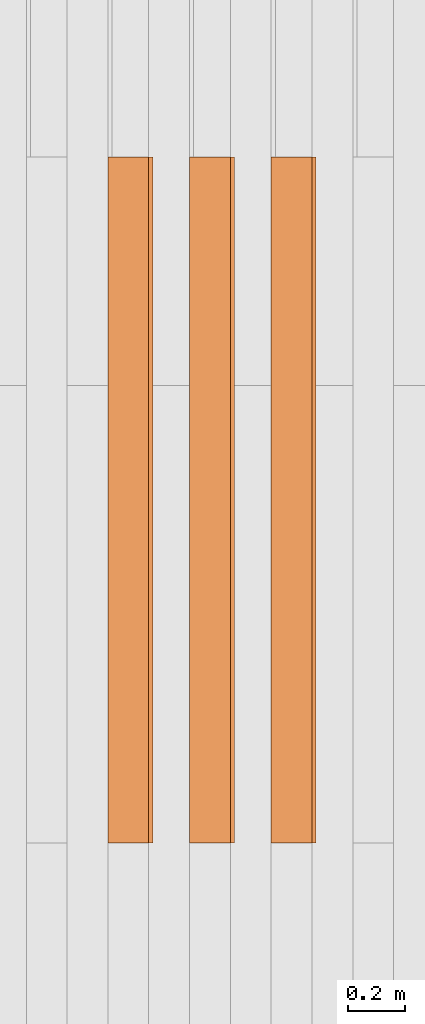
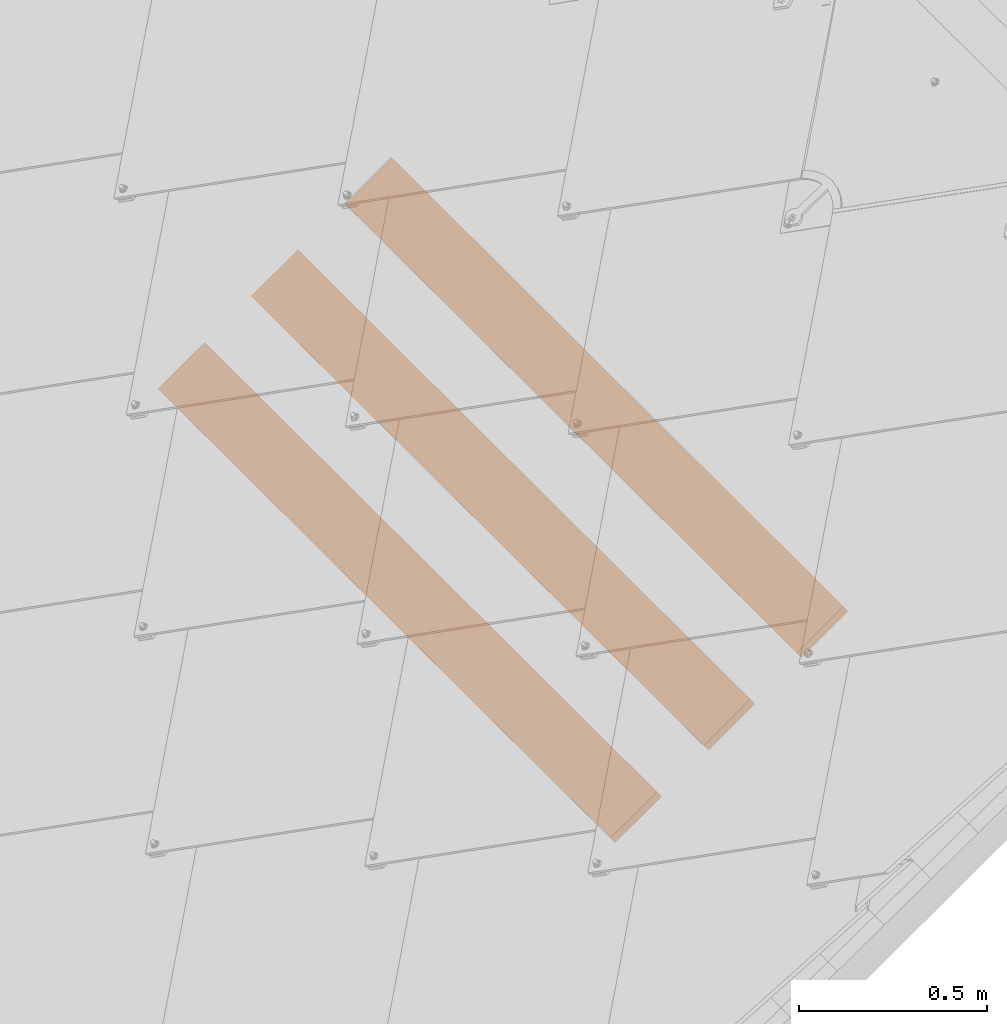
# One storey, part 51 of 151: 3 proxies, 1 element without a shape of its own.
"""IFC2X3 building model written with IfcOpenShell, lengths in millimetres."""

from ifc_helpers import new_model, entity, si_unit, converted_unit, derived_unit, direction, frame, frame_2d, origin, place, context, subcontext, project, spatial, rectangle, extrude, source, transform, mapped, material, type_object, type_shapes, element, aggregate, save


model = new_model("IFC2X3")

# Units and contexts
model_context = context("Model", 3, precision=0.01, world=origin(), true_north=direction((6.12303176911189e-17, 1.0)))
body_context = subcontext(model_context, "Body", "Model", "MODEL_VIEW")
ifc_project = project(units=[si_unit("LENGTHUNIT", "METRE", prefix="MILLI"), si_unit("AREAUNIT", "SQUARE_METRE"), si_unit("VOLUMEUNIT", "CUBIC_METRE"), converted_unit("PLANEANGLEUNIT", "DEGREE", entity("IfcRatioMeasure", 0.0174532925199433), si_unit("PLANEANGLEUNIT", "RADIAN"), dimensions=[0, 0, 0, 0, 0, 0, 0]), si_unit("MASSUNIT", "GRAM", prefix="KILO"), derived_unit("MASSDENSITYUNIT", [(si_unit("MASSUNIT", "GRAM", prefix="KILO"), 1), (si_unit("LENGTHUNIT", "METRE"), -3)]), si_unit("TIMEUNIT", "SECOND"), si_unit("FREQUENCYUNIT", "HERTZ"), si_unit("THERMODYNAMICTEMPERATUREUNIT", "DEGREE_CELSIUS"), derived_unit("THERMALTRANSMITTANCEUNIT", [(si_unit("MASSUNIT", "GRAM", prefix="KILO"), 1), (si_unit("THERMODYNAMICTEMPERATUREUNIT", "KELVIN"), -1), (si_unit("TIMEUNIT", "SECOND"), -3)]), derived_unit("VOLUMETRICFLOWRATEUNIT", [(si_unit("LENGTHUNIT", "METRE"), 3), (si_unit("TIMEUNIT", "SECOND"), -1)]), si_unit("ELECTRICCURRENTUNIT", "AMPERE"), si_unit("ELECTRICVOLTAGEUNIT", "VOLT"), si_unit("POWERUNIT", "WATT"), si_unit("FORCEUNIT", "NEWTON", prefix="KILO"), si_unit("ILLUMINANCEUNIT", "LUX"), si_unit("LUMINOUSFLUXUNIT", "LUMEN"), si_unit("LUMINOUSINTENSITYUNIT", "CANDELA"), derived_unit("USERDEFINED", [(si_unit("MASSUNIT", "GRAM", prefix="KILO"), -1), (si_unit("LENGTHUNIT", "METRE"), -2), (si_unit("TIMEUNIT", "SECOND"), 3), (si_unit("LUMINOUSFLUXUNIT", "LUMEN"), 1)]), derived_unit("LINEARVELOCITYUNIT", [(si_unit("LENGTHUNIT", "METRE"), 1), (si_unit("TIMEUNIT", "SECOND"), -1)]), si_unit("PRESSUREUNIT", "PASCAL"), derived_unit("USERDEFINED", [(si_unit("LENGTHUNIT", "METRE"), -2), (si_unit("MASSUNIT", "GRAM", prefix="KILO"), 1), (si_unit("TIMEUNIT", "SECOND"), -2)])], contexts=[model_context])

# Site, building, storey
site_placement = place(None, origin())
site = spatial("IfcSite", under=ifc_project, at=site_placement, Name="Default", CompositionType="ELEMENT")
building_placement = place(site_placement, origin())
building = spatial("IfcBuilding", under=site, at=building_placement, CompositionType="ELEMENT")
storey_placement = place(building_placement, origin())
storey = spatial("IfcBuildingStorey", under=building, at=storey_placement, Name="Level 1", CompositionType="ELEMENT", Elevation=0.0)

# Assembly, proxies
assembly_placement = place(storey_placement, origin())
assembly = element("IfcElementAssembly", 1, at=assembly_placement, inside=storey, Name="Structural Framing Assembly:Roof Construction Assembly", ObjectType="Structural Framing Assembly:Roof Construction Assembly", AssemblyPlace="NOTDEFINED", PredefinedType="USERDEFINED")
ifc_material = material(Name="Wood - Generic - Wood For Showcase")
building_element_proxy_type_1 = type_object("IfcBuildingElementProxyType", Name="Structural Framing 15", PredefinedType="NOTDEFINED", material=ifc_material)
shared_shape_1 = source(origin(), body_context, "Body", "SweptSolid", [
    extrude(rectangle(XDim=24.9999999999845, YDim=174.344679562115, at=frame_2d((-1.77635683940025e-13, -4.54747350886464e-13), x_axis=(0.0, 1.0))), frame((1128.20180147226, 1525.55080214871, 2760.23940055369), z_axis=(0.0, 1.0, 0.0), x_axis=(-0.819152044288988, 0.0, -0.573576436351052)), (0.0, 0.0, 1.0), 2400.0),
])
type_shapes(building_element_proxy_type_1, [shared_shape_1])
proxy_1_placement = place(assembly_placement, frame((-1370.66013563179, -2470.0, -1000.0)))
proxy_1 = element("IfcBuildingElementProxy", 2, at=proxy_1_placement, type_object=building_element_proxy_type_1, material=ifc_material, Name="Structural Framing 66:Structural Framing 15", ObjectType="Structural Framing 66:Structural Framing 15", context=body_context, shape_type="MappedRepresentation", body=[
    mapped(shared_shape_1, transform((0.0, 0.0, 0.0), scale=1.0)),
])
building_element_proxy_type_2 = type_object("IfcBuildingElementProxyType", Name="Structural Framing 15", PredefinedType="NOTDEFINED", material=ifc_material)
shared_shape_2 = source(origin(), body_context, "Body", "SweptSolid", [
    extrude(rectangle(XDim=24.9999999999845, YDim=174.344679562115, at=frame_2d((-1.77635683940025e-13, -4.54747350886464e-13), x_axis=(0.0, 1.0))), frame((1128.20180147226, 1525.55080214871, 2760.23940055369), z_axis=(0.0, 1.0, 0.0), x_axis=(-0.819152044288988, 0.0, -0.573576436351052)), (0.0, 0.0, 1.0), 2400.0),
])
type_shapes(building_element_proxy_type_2, [shared_shape_2])
proxy_2_placement = place(assembly_placement, frame((-1656.28973698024, -2470.0, -1200.0)))
proxy_2 = element("IfcBuildingElementProxy", 3, at=proxy_2_placement, type_object=building_element_proxy_type_2, material=ifc_material, Name="Structural Framing 76:Structural Framing 15", ObjectType="Structural Framing 76:Structural Framing 15", context=body_context, shape_type="MappedRepresentation", body=[
    mapped(shared_shape_2, transform((0.0, 0.0, 0.0), scale=1.0)),
])
building_element_proxy_type_3 = type_object("IfcBuildingElementProxyType", Name="Structural Framing 15", PredefinedType="NOTDEFINED", material=ifc_material)
shared_shape_3 = source(origin(), body_context, "Body", "SweptSolid", [
    extrude(rectangle(XDim=24.9999999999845, YDim=174.344679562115, at=frame_2d((-1.77635683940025e-13, -4.54747350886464e-13), x_axis=(0.0, 1.0))), frame((1128.20180147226, 1525.55080214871, 2760.23940055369), z_axis=(0.0, 1.0, 0.0), x_axis=(-0.819152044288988, 0.0, -0.573576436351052)), (0.0, 0.0, 1.0), 2400.0),
])
type_shapes(building_element_proxy_type_3, [shared_shape_3])
proxy_3_placement = place(assembly_placement, frame((-1941.91933832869, -2470.0, -1400.0)))
proxy_3 = element("IfcBuildingElementProxy", 4, at=proxy_3_placement, type_object=building_element_proxy_type_3, material=ifc_material, Name="Structural Framing 86:Structural Framing 15", ObjectType="Structural Framing 86:Structural Framing 15", context=body_context, shape_type="MappedRepresentation", body=[
    mapped(shared_shape_3, transform((0.0, 0.0, 0.0), scale=1.0)),
])
aggregate(assembly, [proxy_1, proxy_2, proxy_3])

save(model, "model.ifc")
